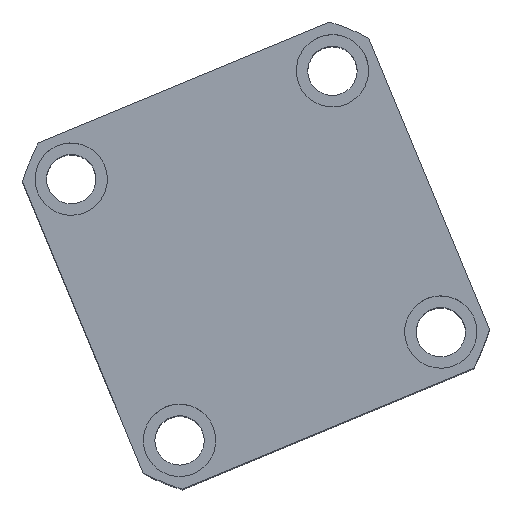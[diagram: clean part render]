
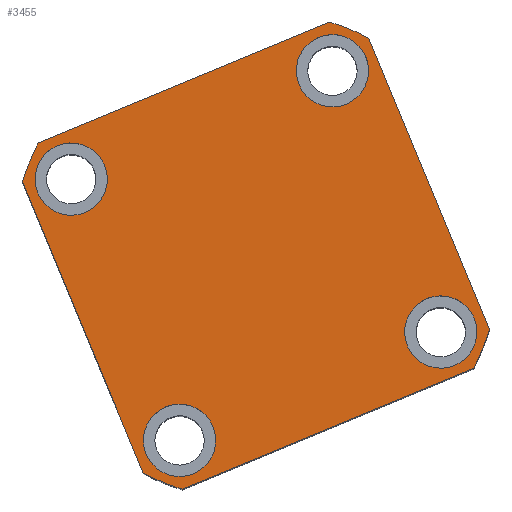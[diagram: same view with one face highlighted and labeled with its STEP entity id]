
A CAD part, top view. The second image highlights one B-rep face of the part: STEP entity #3455.
In plain terms, the highlighted planar face has unit normal (0, 0, 1) as drawn and (0, 0, -1) by its records, which use the part's own axes.
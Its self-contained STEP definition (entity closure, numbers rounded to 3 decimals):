
#372 = AXIS2_PLACEMENT_3D ( 'NONE', #7214, #18329, #8790 ) ;
#506 = EDGE_LOOP ( 'NONE', ( #3217, #19314, #8110, #9612, #9355, #17827, #14906, #4709 ) ) ;
#520 = ORIENTED_EDGE ( 'NONE', *, *, #15065, .F. ) ;
#533 = ORIENTED_EDGE ( 'NONE', *, *, #867, .F. ) ;
#583 = CARTESIAN_POINT ( 'NONE',  ( 32., 43., 0. ) ) ;
#706 = CIRCLE ( 'NONE', #15158, 74.5 ) ;
#867 = EDGE_CURVE ( 'NONE', #10864, #1111, #14827, .T. ) ;
#1029 = DIRECTION ( 'NONE',  ( 1., 0., 0. ) ) ;
#1064 = EDGE_CURVE ( 'NONE', #16710, #3996, #12818, .T. ) ;
#1111 = VERTEX_POINT ( 'NONE', #7782 ) ;
#1199 = AXIS2_PLACEMENT_3D ( 'NONE', #17567, #17709, #17780 ) ;
#1292 = CARTESIAN_POINT ( 'NONE',  ( -47.971, 57., 0. ) ) ;
#1686 = CARTESIAN_POINT ( 'NONE',  ( -47.971, -57., 0. ) ) ;
#1899 = DIRECTION ( 'NONE',  ( 0., 0., 1. ) ) ;
#1927 = EDGE_CURVE ( 'NONE', #9281, #11101, #5616, .T. ) ;
#2018 = CARTESIAN_POINT ( 'NONE',  ( 43., 43., 0. ) ) ;
#2053 = CARTESIAN_POINT ( 'NONE',  ( 43., -43., 0. ) ) ;
#2089 = CARTESIAN_POINT ( 'NONE',  ( -32., 43., 0. ) ) ;
#2153 = CIRCLE ( 'NONE', #19072, 11. ) ;
#2198 = AXIS2_PLACEMENT_3D ( 'NONE', #16559, #7065, #18172 ) ;
#2214 = CIRCLE ( 'NONE', #11393, 74.5 ) ;
#2224 = FACE_BOUND ( 'NONE', #7072, .T. ) ;
#2260 = VERTEX_POINT ( 'NONE', #6655 ) ;
#2339 = CARTESIAN_POINT ( 'NONE',  ( -57., 47.971, 0. ) ) ;
#2749 = ORIENTED_EDGE ( 'NONE', *, *, #18018, .F. ) ;
#2808 = EDGE_LOOP ( 'NONE', ( #4155, #7062 ) ) ;
#2859 = ORIENTED_EDGE ( 'NONE', *, *, #15857, .F. ) ;
#2878 = CIRCLE ( 'NONE', #7840, 11. ) ;
#3145 = CIRCLE ( 'NONE', #372, 74.5 ) ;
#3217 = ORIENTED_EDGE ( 'NONE', *, *, #4669, .F. ) ;
#3394 = CARTESIAN_POINT ( 'NONE',  ( 47.971, 57., 0. ) ) ;
#3413 = CARTESIAN_POINT ( 'NONE',  ( 57., 57., 0. ) ) ;
#3455 = ADVANCED_FACE ( 'NONE', ( #15818, #18543, #2224, #14343, #10042 ), #17570, .F. ) ;
#3464 = CARTESIAN_POINT ( 'NONE',  ( 43., -43., 0. ) ) ;
#3591 = DIRECTION ( 'NONE',  ( -1., 0., 0. ) ) ;
#3623 = DIRECTION ( 'NONE',  ( -1., 0., 0. ) ) ;
#3657 = CARTESIAN_POINT ( 'NONE',  ( 0., 0., 0. ) ) ;
#3926 = AXIS2_PLACEMENT_3D ( 'NONE', #15278, #5765, #16860 ) ;
#3996 = VERTEX_POINT ( 'NONE', #15955 ) ;
#4155 = ORIENTED_EDGE ( 'NONE', *, *, #12368, .F. ) ;
#4575 = AXIS2_PLACEMENT_3D ( 'NONE', #2053, #13080, #3623 ) ;
#4669 = EDGE_CURVE ( 'NONE', #3996, #9346, #2214, .T. ) ;
#4708 = CARTESIAN_POINT ( 'NONE',  ( -43., 43., 0. ) ) ;
#4709 = ORIENTED_EDGE ( 'NONE', *, *, #12808, .F. ) ;
#4840 = LINE ( 'NONE', #7972, #13252 ) ;
#4849 = LINE ( 'NONE', #10315, #16989 ) ;
#5025 = DIRECTION ( 'NONE',  ( -1., 0., 0. ) ) ;
#5099 = CARTESIAN_POINT ( 'NONE',  ( 0., 0., 0. ) ) ;
#5224 = DIRECTION ( 'NONE',  ( 1., 0., 0. ) ) ;
#5616 = LINE ( 'NONE', #15063, #17784 ) ;
#5670 = AXIS2_PLACEMENT_3D ( 'NONE', #4708, #15797, #6279 ) ;
#5734 = AXIS2_PLACEMENT_3D ( 'NONE', #18821, #9276, #20385 ) ;
#5765 = DIRECTION ( 'NONE',  ( 0., 0., -1. ) ) ;
#6279 = DIRECTION ( 'NONE',  ( -1., 0., 0. ) ) ;
#6465 = CARTESIAN_POINT ( 'NONE',  ( -54., -43., 0. ) ) ;
#6479 = EDGE_CURVE ( 'NONE', #1111, #10864, #7075, .T. ) ;
#6568 = VERTEX_POINT ( 'NONE', #6465 ) ;
#6655 = CARTESIAN_POINT ( 'NONE',  ( 54., -43., 0. ) ) ;
#6659 = DIRECTION ( 'NONE',  ( 1., 0., 0. ) ) ;
#7002 = CIRCLE ( 'NONE', #3926, 11. ) ;
#7062 = ORIENTED_EDGE ( 'NONE', *, *, #17932, .F. ) ;
#7065 = DIRECTION ( 'NONE',  ( 0., 0., -1. ) ) ;
#7072 = EDGE_LOOP ( 'NONE', ( #520, #9375 ) ) ;
#7075 = CIRCLE ( 'NONE', #5670, 11. ) ;
#7214 = CARTESIAN_POINT ( 'NONE',  ( 0., 0., 0. ) ) ;
#7513 = CIRCLE ( 'NONE', #5734, 11. ) ;
#7555 = CARTESIAN_POINT ( 'NONE',  ( 57., -47.971, 0. ) ) ;
#7725 = CIRCLE ( 'NONE', #4575, 11. ) ;
#7777 = CARTESIAN_POINT ( 'NONE',  ( -57., -47.971, 0. ) ) ;
#7782 = CARTESIAN_POINT ( 'NONE',  ( -54., 43., 0. ) ) ;
#7840 = AXIS2_PLACEMENT_3D ( 'NONE', #3464, #14543, #5025 ) ;
#7972 = CARTESIAN_POINT ( 'NONE',  ( -57., 57., 0. ) ) ;
#8110 = ORIENTED_EDGE ( 'NONE', *, *, #18095, .F. ) ;
#8305 = EDGE_CURVE ( 'NONE', #19649, #8704, #4849, .T. ) ;
#8315 = DIRECTION ( 'NONE',  ( 0., 1., 0. ) ) ;
#8401 = CARTESIAN_POINT ( 'NONE',  ( 54., 43., 0. ) ) ;
#8561 = VECTOR ( 'NONE', #8315, 1000. ) ;
#8704 = VERTEX_POINT ( 'NONE', #7777 ) ;
#8790 = DIRECTION ( 'NONE',  ( 1., 0., 0. ) ) ;
#9066 = CARTESIAN_POINT ( 'NONE',  ( -32., -43., 0. ) ) ;
#9276 = DIRECTION ( 'NONE',  ( 0., 0., -1. ) ) ;
#9281 = VERTEX_POINT ( 'NONE', #1686 ) ;
#9346 = VERTEX_POINT ( 'NONE', #3394 ) ;
#9355 = ORIENTED_EDGE ( 'NONE', *, *, #12649, .F. ) ;
#9375 = ORIENTED_EDGE ( 'NONE', *, *, #9387, .F. ) ;
#9387 = EDGE_CURVE ( 'NONE', #14096, #12258, #2153, .T. ) ;
#9612 = ORIENTED_EDGE ( 'NONE', *, *, #1927, .F. ) ;
#10038 = AXIS2_PLACEMENT_3D ( 'NONE', #19243, #1899, #12909 ) ;
#10042 = FACE_OUTER_BOUND ( 'NONE', #506, .T. ) ;
#10315 = CARTESIAN_POINT ( 'NONE',  ( -57., 57., 0. ) ) ;
#10380 = DIRECTION ( 'NONE',  ( 0., 0., 1. ) ) ;
#10864 = VERTEX_POINT ( 'NONE', #2089 ) ;
#11015 = AXIS2_PLACEMENT_3D ( 'NONE', #3657, #14727, #5224 ) ;
#11101 = VERTEX_POINT ( 'NONE', #11938 ) ;
#11188 = CIRCLE ( 'NONE', #2198, 11. ) ;
#11393 = AXIS2_PLACEMENT_3D ( 'NONE', #19915, #10380, #1029 ) ;
#11927 = DIRECTION ( 'NONE',  ( 0., -1., 0. ) ) ;
#11938 = CARTESIAN_POINT ( 'NONE',  ( 47.971, -57., 0. ) ) ;
#11960 = VERTEX_POINT ( 'NONE', #9066 ) ;
#12258 = VERTEX_POINT ( 'NONE', #583 ) ;
#12368 = EDGE_CURVE ( 'NONE', #6568, #11960, #11188, .T. ) ;
#12649 = EDGE_CURVE ( 'NONE', #8704, #9281, #3145, .T. ) ;
#12777 = DIRECTION ( 'NONE',  ( 1., 0., 0. ) ) ;
#12808 = EDGE_CURVE ( 'NONE', #9346, #16189, #4840, .T. ) ;
#12818 = LINE ( 'NONE', #3413, #8561 ) ;
#12909 = DIRECTION ( 'NONE',  ( 1., 0., 0. ) ) ;
#12923 = EDGE_CURVE ( 'NONE', #16189, #19649, #706, .T. ) ;
#13040 = DIRECTION ( 'NONE',  ( 0., 0., -1. ) ) ;
#13080 = DIRECTION ( 'NONE',  ( 0., 0., -1. ) ) ;
#13252 = VECTOR ( 'NONE', #19107, 1000. ) ;
#14096 = VERTEX_POINT ( 'NONE', #8401 ) ;
#14343 = FACE_BOUND ( 'NONE', #18145, .T. ) ;
#14543 = DIRECTION ( 'NONE',  ( 0., 0., -1. ) ) ;
#14727 = DIRECTION ( 'NONE',  ( 0., 0., 1. ) ) ;
#14827 = CIRCLE ( 'NONE', #1199, 11. ) ;
#14906 = ORIENTED_EDGE ( 'NONE', *, *, #12923, .F. ) ;
#14929 = EDGE_LOOP ( 'NONE', ( #2859, #2749 ) ) ;
#15063 = CARTESIAN_POINT ( 'NONE',  ( -57., -57., 0. ) ) ;
#15065 = EDGE_CURVE ( 'NONE', #12258, #14096, #7002, .T. ) ;
#15158 = AXIS2_PLACEMENT_3D ( 'NONE', #5099, #16177, #6659 ) ;
#15278 = CARTESIAN_POINT ( 'NONE',  ( 43., 43., 0. ) ) ;
#15606 = VERTEX_POINT ( 'NONE', #19179 ) ;
#15797 = DIRECTION ( 'NONE',  ( 0., 0., -1. ) ) ;
#15818 = FACE_BOUND ( 'NONE', #2808, .T. ) ;
#15857 = EDGE_CURVE ( 'NONE', #15606, #2260, #7725, .T. ) ;
#15955 = CARTESIAN_POINT ( 'NONE',  ( 57., 47.971, 0. ) ) ;
#16177 = DIRECTION ( 'NONE',  ( 0., 0., 1. ) ) ;
#16189 = VERTEX_POINT ( 'NONE', #1292 ) ;
#16349 = ORIENTED_EDGE ( 'NONE', *, *, #6479, .F. ) ;
#16559 = CARTESIAN_POINT ( 'NONE',  ( -43., -43., 0. ) ) ;
#16710 = VERTEX_POINT ( 'NONE', #7555 ) ;
#16860 = DIRECTION ( 'NONE',  ( -1., 0., 0. ) ) ;
#16989 = VECTOR ( 'NONE', #11927, 1000. ) ;
#17567 = CARTESIAN_POINT ( 'NONE',  ( -43., 43., 0. ) ) ;
#17570 = PLANE ( 'NONE',  #10038 ) ;
#17709 = DIRECTION ( 'NONE',  ( 0., 0., -1. ) ) ;
#17780 = DIRECTION ( 'NONE',  ( -1., 0., 0. ) ) ;
#17784 = VECTOR ( 'NONE', #12777, 1000. ) ;
#17827 = ORIENTED_EDGE ( 'NONE', *, *, #8305, .F. ) ;
#17932 = EDGE_CURVE ( 'NONE', #11960, #6568, #7513, .T. ) ;
#18018 = EDGE_CURVE ( 'NONE', #2260, #15606, #2878, .T. ) ;
#18095 = EDGE_CURVE ( 'NONE', #11101, #16710, #18706, .T. ) ;
#18145 = EDGE_LOOP ( 'NONE', ( #16349, #533 ) ) ;
#18172 = DIRECTION ( 'NONE',  ( -1., 0., 0. ) ) ;
#18329 = DIRECTION ( 'NONE',  ( 0., 0., 1. ) ) ;
#18543 = FACE_BOUND ( 'NONE', #14929, .T. ) ;
#18706 = CIRCLE ( 'NONE', #11015, 74.5 ) ;
#18821 = CARTESIAN_POINT ( 'NONE',  ( -43., -43., 0. ) ) ;
#19072 = AXIS2_PLACEMENT_3D ( 'NONE', #2018, #13040, #3591 ) ;
#19107 = DIRECTION ( 'NONE',  ( -1., 0., 0. ) ) ;
#19179 = CARTESIAN_POINT ( 'NONE',  ( 32., -43., 0. ) ) ;
#19243 = CARTESIAN_POINT ( 'NONE',  ( 0., 0., 0. ) ) ;
#19314 = ORIENTED_EDGE ( 'NONE', *, *, #1064, .F. ) ;
#19649 = VERTEX_POINT ( 'NONE', #2339 ) ;
#19915 = CARTESIAN_POINT ( 'NONE',  ( 0., 0., 0. ) ) ;
#20385 = DIRECTION ( 'NONE',  ( -1., 0., 0. ) ) ;
